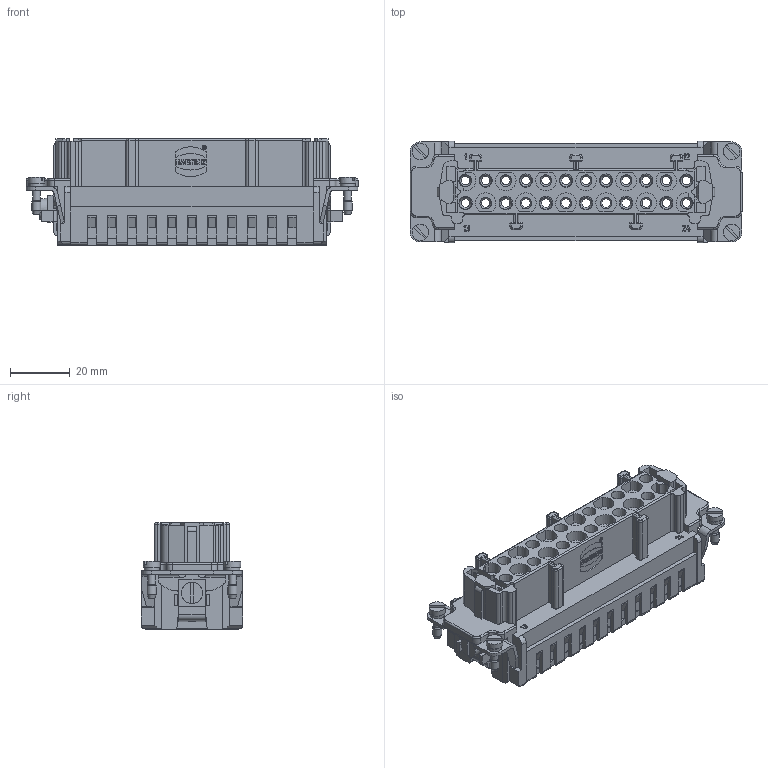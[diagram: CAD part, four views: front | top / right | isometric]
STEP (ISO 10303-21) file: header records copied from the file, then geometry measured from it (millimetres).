
FILE_DESCRIPTION(/* description */ (''),/* implementation_level */ '2;1');
FILE_NAME(/* name */ '100792576ugm000_c.stp',/* time_stamp */ '2022-10-28T07:51:53+02:00',/* author */ (''),/* organization */ (''),/* preprocessor_version */ 'ST-DEVELOPER v16.7',/* originating_system */ 'SIEMENS PLM Software NX 1911',/* authorisation */ '');
FILE_SCHEMA (('AUTOMOTIVE_DESIGN { 1 0 10303 214 3 1 1 1 }'));
Products named in the file (1): 100792576ugm000_c
Bounding box: 110.85 x 33.9 x 35.5 mm (x, y, z)
Volume: 64123.5 mm3; surface area: 36323.1 mm2
Topology: 1 solids, 1 shells, 1599 faces, 4449 edges, 2920 vertices
Faces by surface type: plane 1098, cylinder 345, bspline 58, cone 49, extrusion 27, torus 12, sphere 10
Full cylindrical faces by diameter (mm): 1.139 x1, 1.346 x1, 2.13 x2, 2.285 x2, 2.5 x4, 2.85 x24, 3 x4, 3.242 x1, 3.5 x1, 4.85 x24, 5 x4, 5.5 x4, 7 x1
Entity records: 62725 total; most frequent: CARTESIAN_POINT 12068, ORIENTED_EDGE 8282, DIRECTION 7696, EDGE_CURVE 4141, VECTOR 3038, LINE 3011, VERTEX_POINT 2770, AXIS2_PLACEMENT_3D 2329
